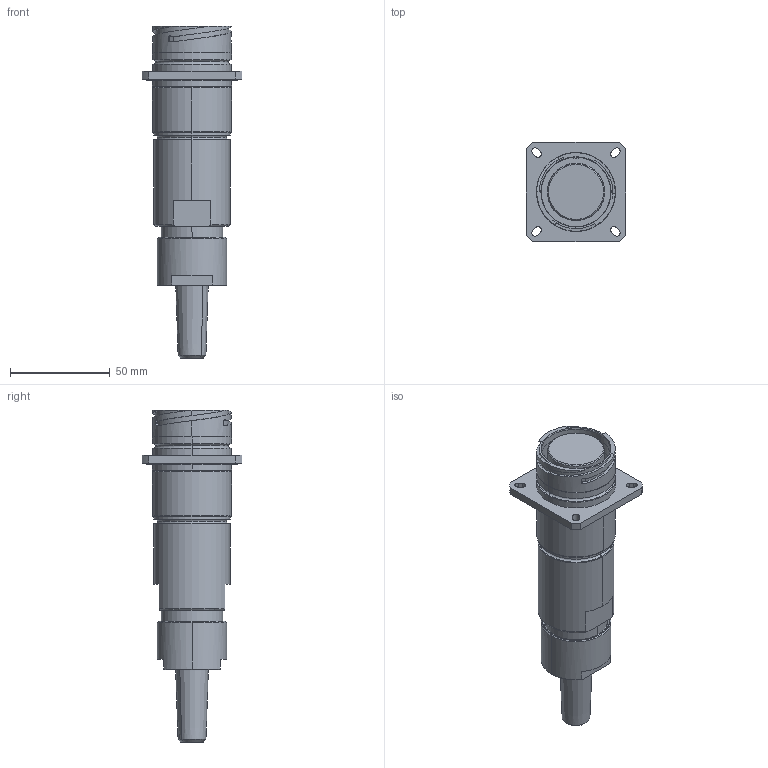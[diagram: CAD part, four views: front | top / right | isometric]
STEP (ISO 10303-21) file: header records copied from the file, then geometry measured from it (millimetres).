
FILE_DESCRIPTION (( 'STEP AP214' ), '1' );
FILE_NAME ('QLINK-RFBX-23XX-SXXX-RA.STEP', '2025-12-16T16:08:03', ( '' ), ( '' ), 'SwSTEP 2.0', 'SolidWorks 2024', '' );
FILE_SCHEMA (( 'AUTOMOTIVE_DESIGN' ));
Length unit declared in the file: millimetre
Products named in the file (1): QLINK-RFBX-23XX-SXXX-RA
Bounding box: 50.04 x 50.04 x 166.39 mm (x, y, z)
Volume: 145007.1 mm3; surface area: 31127.2 mm2
Topology: 2 solids, 2 shells, 195 faces, 465 edges, 294 vertices
Faces by surface type: cylinder 71, plane 56, torus 26, cone 25, bspline 17
Entity records: 9053 total; most frequent: CARTESIAN_POINT 4550, DIRECTION 956, ORIENTED_EDGE 930, EDGE_CURVE 465, AXIS2_PLACEMENT_3D 397, VERTEX_POINT 294, EDGE_LOOP 225, CIRCLE 218
